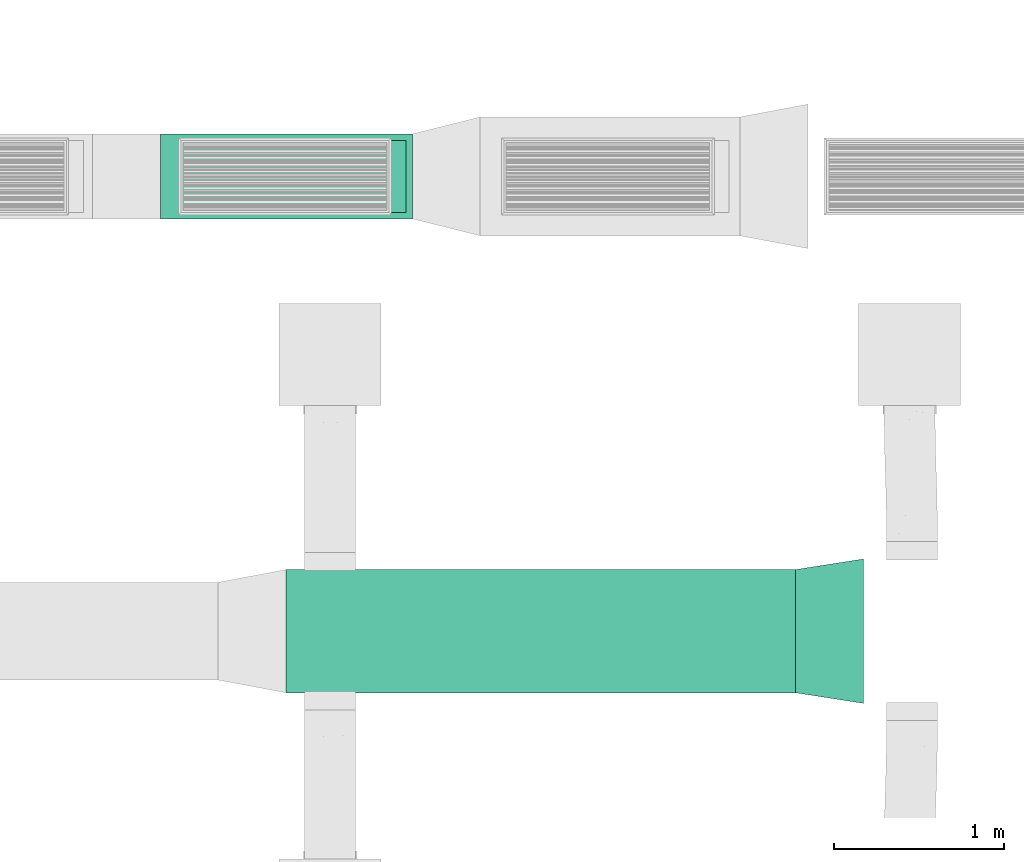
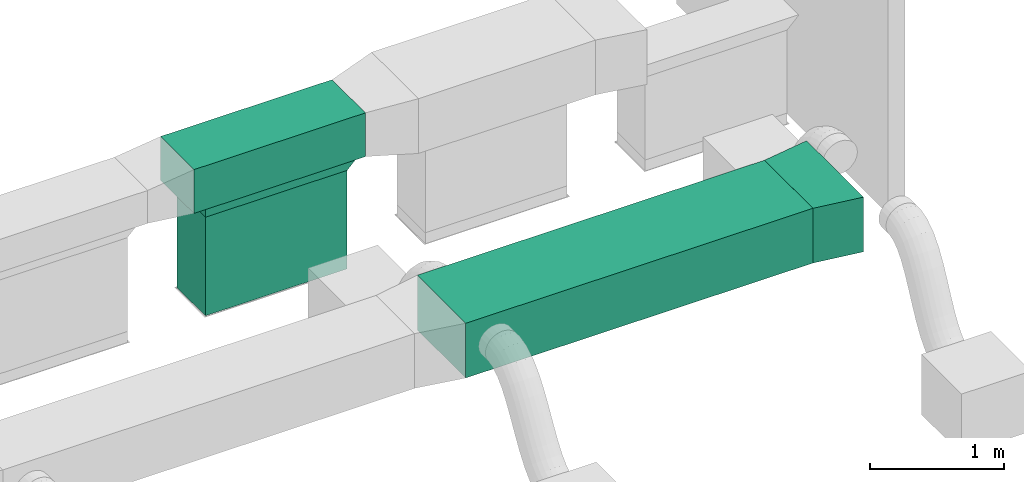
# One storey, part 10 of 60: 3 flow segments, 2 flow fittings.
"""IFC2X3 building model written with IfcOpenShell, lengths in millimetres."""

from ifc_helpers import new_model, entity, si_unit, converted_unit, derived_unit, direction, frame, frame_2d, origin, origin_2d_with_axis, place, context, subcontext, project, spatial, polyline, rectangle, outline, extrude, source, transform, mapped, material, type_object, type_shapes, element, save


model = new_model("IFC2X3")

# Units and contexts
model_context = context("Model", 3, precision=0.01, world=origin(), true_north=direction((6.123233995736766e-17, 1.0)))
body_context = subcontext(model_context, "Body", "Model", "MODEL_VIEW")
ifc_project = project(units=[si_unit("LENGTHUNIT", "METRE", prefix="MILLI"), converted_unit("PLANEANGLEUNIT", "DEGREE", entity("IfcPlaneAngleMeasure", 0.017453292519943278), si_unit("PLANEANGLEUNIT", "RADIAN"), dimensions=[0, 0, 0, 0, 0, 0, 0]), si_unit("AREAUNIT", "SQUARE_METRE"), derived_unit("THERMALTRANSMITTANCEUNIT", [(si_unit("MASSUNIT", "GRAM", prefix="KILO"), 1), (si_unit("THERMODYNAMICTEMPERATUREUNIT", "KELVIN"), -1), (si_unit("TIMEUNIT", "SECOND"), -3)])], contexts=[model_context])

# Site, building, storey
site_placement = place(None, origin())
site = spatial("IfcSite", under=ifc_project, at=site_placement, Name="Default", CompositionType="ELEMENT")
building_placement = place(site_placement, origin())
building = spatial("IfcBuilding", under=site, at=building_placement, Name="Praça Pedro II, 1301 - Centro (Sul), Teresina - PI, 64001-100", CompositionType="ELEMENT")
storey_placement = place(building_placement, frame((0.0, 0.0, 6040.0)))
storey = spatial("IfcBuildingStorey", under=building, at=storey_placement, Name="2PAV", CompositionType="ELEMENT", Elevation=6040.0)

# Flow segments
duct_segment_type_1 = type_object("IfcDuctSegmentType", Name="Duto retangular:Raios cotovelos / tês", PredefinedType="NOTDEFINED")
flow_segment_1_placement = place(storey_placement, origin())
element("IfcFlowSegment", 1, at=flow_segment_1_placement, inside=storey, type_object=duct_segment_type_1, Name="Duto retangular:Raios cotovelos / tês", ObjectType="Duto retangular:Raios cotovelos / tês", context=body_context, shape_type="SweptSolid", body=[
    extrude(rectangle(XDim=3000.000000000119, YDim=724.9999999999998, at=frame_2d((-2.1600499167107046e-12, 1.3017142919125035e-11), x_axis=(1.0, 0.0))), frame((27751.3210715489, -58248.42127782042, 3230.0)), (0.0, 0.0, 1.0), 499.999999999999),
])
duct_segment_type_2 = type_object("IfcDuctSegmentType", Name="Duto retangular:Raios cotovelos / torneiras", PredefinedType="NOTDEFINED")
flow_segment_2_placement = place(storey_placement, origin())
element("IfcFlowSegment", 2, at=flow_segment_2_placement, inside=storey, type_object=duct_segment_type_2, Name="Duto retangular:Raios cotovelos / torneiras", ObjectType="Duto retangular:Raios cotovelos / torneiras", context=body_context, shape_type="SweptSolid", body=[
    extrude(rectangle(XDim=1481.530519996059, YDim=499.999999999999, at=frame_2d((-2.1600499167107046e-12, 4.334310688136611e-12), x_axis=(1.0, 0.0))), frame((26254.846774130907, -55571.293902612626, 3300.0)), (0.0, 0.0, 1.0), 400.0),
])
flow_segment_3_placement = place(storey_placement, origin())
element("IfcFlowSegment", 3, at=flow_segment_3_placement, inside=storey, type_object=duct_segment_type_2, Name="Duto retangular:Raios cotovelos / torneiras", ObjectType="Duto retangular:Raios cotovelos / torneiras", context=body_context, shape_type="SweptSolid", body=[
    extrude(rectangle(XDim=425.00000000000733, YDim=1224.9999999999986, at=origin_2d_with_axis()), frame((26246.91129512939, -55571.29390261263, 2300.0), z_axis=(0.0, 0.0, 1.0), x_axis=(0.0, -1.0, 0.0)), (0.0, 0.0, 1.0), 899.9999999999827),
])

# Flow fittings
ifc_material = material(Name="<Unnamed>")
duct_fitting_type_1 = type_object("IfcDuctFittingType", Name="M_Rectangular Tap - Beveled:Standard", PredefinedType="NOTDEFINED", material=ifc_material)
shared_shape_1 = source(origin(), body_context, "Body", "SweptSolid", [
    extrude(outline(polyline([(-775.0, -62.438400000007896), (450.0, -62.438400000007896), (550.0, 37.56159999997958), (550.0, 43.6576000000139), (-775.0, 43.65760000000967), (-775.0, -62.438400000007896)])), frame((37.56159999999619, 162.50000000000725, -212.49999999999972), z_axis=(0.0, 0.0, 1.0), x_axis=(0.0, 1.0, 0.0)), (0.0, 0.0, 1.0), 424.99999999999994),
])
type_shapes(duct_fitting_type_1, [shared_shape_1])
flow_fitting_1_placement = place(storey_placement, frame((26246.91129512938, -55571.29390261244, 3300.0), z_axis=(0.0, -1.0, 0.0), x_axis=(0.0, 0.0, -1.0)))
element("IfcFlowFitting", 4, at=flow_fitting_1_placement, inside=storey, type_object=duct_fitting_type_1, material=ifc_material, Name="M_Rectangular Tap - Beveled:Standard", ObjectType="M_Rectangular Tap - Beveled:Standard", context=body_context, shape_type="MappedRepresentation", body=[
    mapped(shared_shape_1, transform((0.0, 0.0, 0.0), scale=1.0)),
])
duct_fitting_type_2 = type_object("IfcDuctFittingType", Name="M_Rectangular Transition - L:400 mm (L)", PredefinedType="NOTDEFINED", material=ifc_material)
shared_shape_2 = source(origin(), body_context, "Body", "SweptSolid", [
    extrude(outline(polyline([(-141.64078765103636, -389.02973828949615), (263.21258086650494, -389.02973828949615), (131.99223263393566, 450.78049039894), (-253.56402584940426, 327.2789861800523), (-141.64078765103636, -389.02973828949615)])), frame((200.0, 0.0, -250.0), z_axis=(0.0, 0.0, 1.0), x_axis=(0.9880120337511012, -0.1543768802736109, 0.0)), (0.0, 0.0, 1.0), 500.00000000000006),
])
type_shapes(duct_fitting_type_2, [shared_shape_2])
flow_fitting_2_placement = place(storey_placement, frame((29251.32107154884, -58248.42127782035, 3480.0)))
element("IfcFlowFitting", 5, at=flow_fitting_2_placement, inside=storey, type_object=duct_fitting_type_2, material=ifc_material, Name="M_Rectangular Transition - L:400 mm (L)", ObjectType="M_Rectangular Transition - L:400 mm (L)", context=body_context, shape_type="MappedRepresentation", body=[
    mapped(shared_shape_2, transform((0.0, 0.0, 0.0), scale=1.0)),
])

save(model, "model.ifc")
